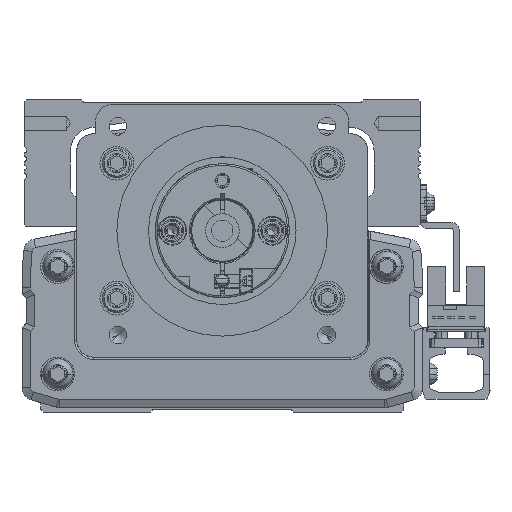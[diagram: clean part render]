
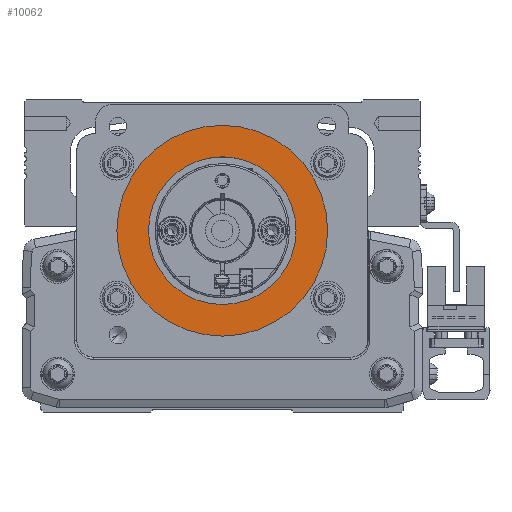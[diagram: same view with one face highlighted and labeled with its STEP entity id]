
A CAD part, front view. The second image highlights one B-rep face of the part: STEP entity #10062.
In plain terms, the highlighted planar face has unit normal (0, -1, 0).
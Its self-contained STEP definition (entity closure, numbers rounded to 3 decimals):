
#10062=ADVANCED_FACE('',(#20926,#20927),#20928,.T.);
#20926=FACE_BOUND('',#34439,.T.);
#20927=FACE_OUTER_BOUND('',#34440,.T.);
#20928=PLANE('',#34441);
#34439=EDGE_LOOP('',(#63790,#63791));
#34440=EDGE_LOOP('',(#63792,#63793));
#34441=AXIS2_PLACEMENT_3D('',#63794,#63795,#63796);
#63790=ORIENTED_EDGE('',*,*,#80237,.T.);
#63791=ORIENTED_EDGE('',*,*,#77597,.T.);
#63792=ORIENTED_EDGE('',*,*,#80216,.F.);
#63793=ORIENTED_EDGE('',*,*,#73860,.F.);
#63794=CARTESIAN_POINT('',(0.,-410.778,0.));
#63795=DIRECTION('',(0.,-1.0,0.));
#63796=DIRECTION('',(1.0,0.,0.));
#73860=EDGE_CURVE('',#89788,#89783,#89790,.T.);
#77597=EDGE_CURVE('',#95407,#95411,#95413,.T.);
#80216=EDGE_CURVE('',#89783,#89788,#98807,.T.);
#80237=EDGE_CURVE('',#95411,#95407,#98833,.T.);
#89783=VERTEX_POINT('',#111815);
#89788=VERTEX_POINT('',#111821);
#89790=CIRCLE('',#111824,25.0);
#95407=VERTEX_POINT('',#120135);
#95411=VERTEX_POINT('',#120140);
#95413=CIRCLE('',#120143,17.5);
#98807=CIRCLE('',#125085,25.0);
#98833=CIRCLE('',#125117,17.5);
#111815=CARTESIAN_POINT('',(25.,-410.778,0.));
#111821=CARTESIAN_POINT('',(-25.,-410.778,0.));
#111824=AXIS2_PLACEMENT_3D('',#134100,#134101,#134102);
#120135=CARTESIAN_POINT('',(-17.5,-410.778,0.));
#120140=CARTESIAN_POINT('',(17.5,-410.778,0.));
#120143=AXIS2_PLACEMENT_3D('',#139014,#139015,#139016);
#125085=AXIS2_PLACEMENT_3D('',#142275,#142276,#142277);
#125117=AXIS2_PLACEMENT_3D('',#142305,#142306,#142307);
#134100=CARTESIAN_POINT('',(0.,-410.778,0.));
#134101=DIRECTION('',(0.,1.0,0.));
#134102=DIRECTION('',(1.0,0.,0.));
#139014=CARTESIAN_POINT('',(0.,-410.778,0.));
#139015=DIRECTION('',(0.,1.0,0.));
#139016=DIRECTION('',(-1.0,0.,0.));
#142275=CARTESIAN_POINT('',(0.,-410.778,0.));
#142276=DIRECTION('',(0.,1.0,0.));
#142277=DIRECTION('',(1.0,0.,0.));
#142305=CARTESIAN_POINT('',(0.,-410.778,0.));
#142306=DIRECTION('',(0.,1.0,0.));
#142307=DIRECTION('',(-1.0,0.,0.));
